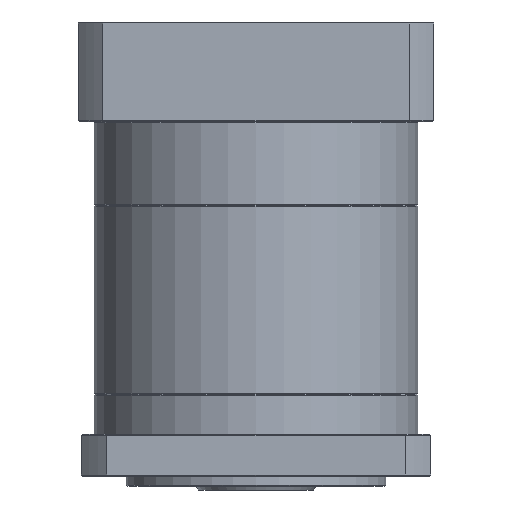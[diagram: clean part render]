
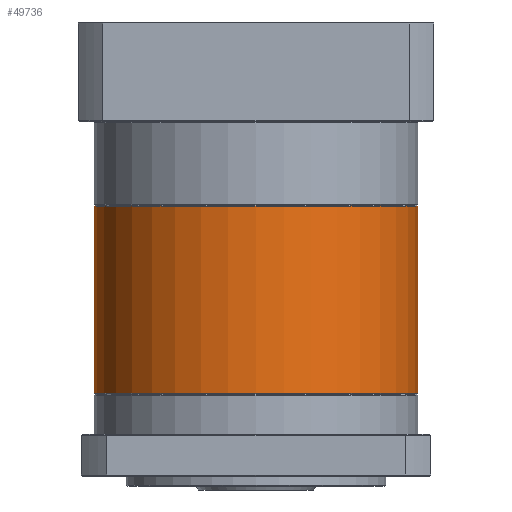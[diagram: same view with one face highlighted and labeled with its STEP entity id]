
A CAD part, front view. The second image highlights one B-rep face of the part: STEP entity #49736.
In plain terms, the highlighted cylindrical face has radius 81 mm (diameter 162 mm), a partial arc.
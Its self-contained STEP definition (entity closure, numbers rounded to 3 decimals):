
#608 = ORIENTED_EDGE ( 'NONE', *, *, #32377, .T. ) ;
#640 = DIRECTION ( 'NONE',  ( 0., 0., -1. ) ) ;
#1098 = ORIENTED_EDGE ( 'NONE', *, *, #42845, .T. ) ;
#4372 = CARTESIAN_POINT ( 'NONE',  ( -178.295, 74.934, -94.764 ) ) ;
#24229 = CARTESIAN_POINT ( 'NONE',  ( -178.295, 74.934, -94.264 ) ) ;
#25138 = LINE ( 'NONE', #94024, #105446 ) ;
#25892 = VERTEX_POINT ( 'NONE', #58114 ) ;
#27683 = FACE_OUTER_BOUND ( 'NONE', #35522, .T. ) ;
#27900 = CARTESIAN_POINT ( 'NONE',  ( -16.295, 74.934, -94.764 ) ) ;
#32377 = EDGE_CURVE ( 'NONE', #117660, #57554, #43903, .T. ) ;
#32525 = DIRECTION ( 'NONE',  ( 0., 0., -1. ) ) ;
#35522 = EDGE_LOOP ( 'NONE', ( #57269, #608, #128470, #1098 ) ) ;
#40991 = CARTESIAN_POINT ( 'NONE',  ( -97.295, 74.934, -94.264 ) ) ;
#42845 = EDGE_CURVE ( 'NONE', #52468, #25892, #69867, .T. ) ;
#43903 = CIRCLE ( 'NONE', #63105, 81. ) ;
#49736 = ADVANCED_FACE ( 'NONE', ( #27683 ), #126038, .T. ) ;
#52383 = DIRECTION ( 'NONE',  ( -1., 0., 0. ) ) ;
#52468 = VERTEX_POINT ( 'NONE', #78851 ) ;
#57269 = ORIENTED_EDGE ( 'NONE', *, *, #97618, .F. ) ;
#57554 = VERTEX_POINT ( 'NONE', #4372 ) ;
#58114 = CARTESIAN_POINT ( 'NONE',  ( -16.295, 74.934, -188.264 ) ) ;
#59622 = EDGE_CURVE ( 'NONE', #57554, #52468, #73572, .T. ) ;
#63105 = AXIS2_PLACEMENT_3D ( 'NONE', #125558, #32525, #115984 ) ;
#69867 = CIRCLE ( 'NONE', #121817, 81. ) ;
#70331 = DIRECTION ( 'NONE',  ( 0., 0., -1. ) ) ;
#73572 = LINE ( 'NONE', #24229, #108137 ) ;
#75034 = DIRECTION ( 'NONE',  ( -1., 0., 0. ) ) ;
#78851 = CARTESIAN_POINT ( 'NONE',  ( -178.295, 74.934, -188.264 ) ) ;
#94024 = CARTESIAN_POINT ( 'NONE',  ( -16.295, 74.934, -94.264 ) ) ;
#97024 = CARTESIAN_POINT ( 'NONE',  ( -97.295, 74.934, -188.264 ) ) ;
#97618 = EDGE_CURVE ( 'NONE', #117660, #25892, #25138, .T. ) ;
#105446 = VECTOR ( 'NONE', #108320, 1000. ) ;
#108137 = VECTOR ( 'NONE', #70331, 1000. ) ;
#108320 = DIRECTION ( 'NONE',  ( 0., 0., -1. ) ) ;
#115984 = DIRECTION ( 'NONE',  ( -1., 0., 0. ) ) ;
#117660 = VERTEX_POINT ( 'NONE', #27900 ) ;
#121817 = AXIS2_PLACEMENT_3D ( 'NONE', #97024, #126853, #75034 ) ;
#125558 = CARTESIAN_POINT ( 'NONE',  ( -97.295, 74.934, -94.764 ) ) ;
#126038 = CYLINDRICAL_SURFACE ( 'NONE', #126405, 81. ) ;
#126405 = AXIS2_PLACEMENT_3D ( 'NONE', #40991, #640, #52383 ) ;
#126853 = DIRECTION ( 'NONE',  ( 0., 0., 1. ) ) ;
#128470 = ORIENTED_EDGE ( 'NONE', *, *, #59622, .T. ) ;
